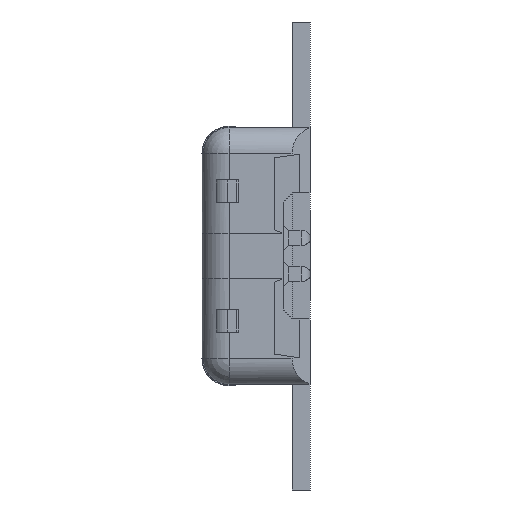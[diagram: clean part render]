
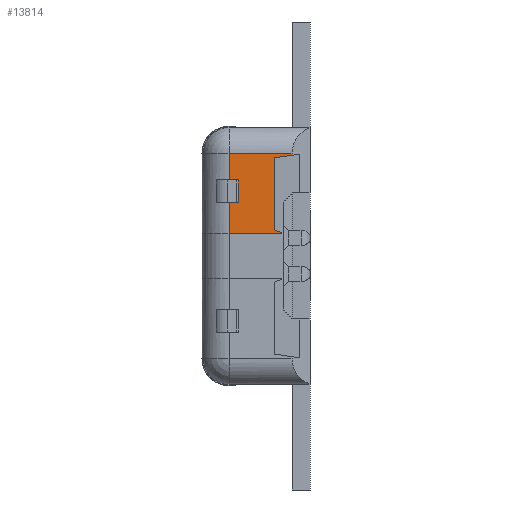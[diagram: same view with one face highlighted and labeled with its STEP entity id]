
A CAD part, left-side view. The second image highlights one B-rep face of the part: STEP entity #13814.
In plain terms, the highlighted planar face has unit normal (-1, 0, 0).
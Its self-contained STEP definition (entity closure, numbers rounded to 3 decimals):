
#585 = LINE ( 'NONE', #16122, #5335 ) ;
#744 = LINE ( 'NONE', #24359, #17638 ) ;
#988 = CARTESIAN_POINT ( 'NONE',  ( -1.93, 0.1, 0.57 ) ) ;
#1287 = FACE_OUTER_BOUND ( 'NONE', #24732, .T. ) ;
#1405 = CARTESIAN_POINT ( 'NONE',  ( -1.93, 0.4, 0.423 ) ) ;
#1539 = EDGE_CURVE ( 'NONE', #19059, #17351, #744, .T. ) ;
#1727 = EDGE_CURVE ( 'NONE', #11001, #13772, #585, .T. ) ;
#1901 = LINE ( 'NONE', #9736, #23434 ) ;
#1994 = DIRECTION ( 'NONE',  ( 0., 0., -1. ) ) ;
#2076 = EDGE_CURVE ( 'NONE', #19059, #23002, #5708, .T. ) ;
#2386 = DIRECTION ( 'NONE',  ( 0., 0.989, -0.148 ) ) ;
#2564 = DIRECTION ( 'NONE',  ( 0., -1., 0. ) ) ;
#2658 = DIRECTION ( 'NONE',  ( 0., 1., 0. ) ) ;
#2836 = CARTESIAN_POINT ( 'NONE',  ( -1.93, 0.15, 0.125 ) ) ;
#2984 = ORIENTED_EDGE ( 'NONE', *, *, #16762, .F. ) ;
#3034 = CARTESIAN_POINT ( 'NONE',  ( -1.93, 0.45, 0.298 ) ) ;
#4231 = VERTEX_POINT ( 'NONE', #5182 ) ;
#5035 = LINE ( 'NONE', #23127, #23307 ) ;
#5182 = CARTESIAN_POINT ( 'NONE',  ( -1.93, 0.45, 0.125 ) ) ;
#5335 = VECTOR ( 'NONE', #10353, 1000. ) ;
#5648 = PLANE ( 'NONE',  #21124 ) ;
#5708 = LINE ( 'NONE', #15972, #21654 ) ;
#5833 = CARTESIAN_POINT ( 'NONE',  ( -1.93, 0.45, 0.423 ) ) ;
#6487 = VERTEX_POINT ( 'NONE', #18800 ) ;
#7008 = EDGE_CURVE ( 'NONE', #13434, #17351, #1901, .T. ) ;
#7185 = VECTOR ( 'NONE', #17453, 1000. ) ;
#7224 = CARTESIAN_POINT ( 'NONE',  ( -1.93, 0.45, 0.57 ) ) ;
#7565 = LINE ( 'NONE', #19375, #7185 ) ;
#8259 = CARTESIAN_POINT ( 'NONE',  ( -1.93, 0.2, 0.145 ) ) ;
#8847 = ORIENTED_EDGE ( 'NONE', *, *, #1539, .F. ) ;
#9258 = VECTOR ( 'NONE', #24954, 1000. ) ;
#9264 = DIRECTION ( 'NONE',  ( 0., 0., -1. ) ) ;
#9290 = VECTOR ( 'NONE', #1994, 1000. ) ;
#9736 = CARTESIAN_POINT ( 'NONE',  ( -1.93, 0.45, 0.57 ) ) ;
#10353 = DIRECTION ( 'NONE',  ( 0., -0.928, -0.371 ) ) ;
#10758 = ORIENTED_EDGE ( 'NONE', *, *, #11494, .F. ) ;
#10878 = ORIENTED_EDGE ( 'NONE', *, *, #7008, .T. ) ;
#10911 = VECTOR ( 'NONE', #2564, 1000. ) ;
#11001 = VERTEX_POINT ( 'NONE', #8259 ) ;
#11204 = LINE ( 'NONE', #19029, #9258 ) ;
#11494 = EDGE_CURVE ( 'NONE', #20838, #23002, #18355, .T. ) ;
#13017 = ORIENTED_EDGE ( 'NONE', *, *, #17130, .F. ) ;
#13343 = CARTESIAN_POINT ( 'NONE',  ( -1.93, 0.275, 0.545 ) ) ;
#13434 = VERTEX_POINT ( 'NONE', #7224 ) ;
#13772 = VERTEX_POINT ( 'NONE', #2836 ) ;
#13814 = ADVANCED_FACE ( 'NONE', ( #1287 ), #5648, .F. ) ;
#13874 = ORIENTED_EDGE ( 'NONE', *, *, #14622, .T. ) ;
#13875 = EDGE_CURVE ( 'NONE', #20838, #4231, #7565, .T. ) ;
#14622 = EDGE_CURVE ( 'NONE', #15858, #13434, #11204, .T. ) ;
#15108 = ORIENTED_EDGE ( 'NONE', *, *, #20917, .F. ) ;
#15516 = DIRECTION ( 'NONE',  ( 0., 0., -1. ) ) ;
#15858 = VERTEX_POINT ( 'NONE', #17408 ) ;
#15972 = CARTESIAN_POINT ( 'NONE',  ( -1.93, 0.4, 0.423 ) ) ;
#16122 = CARTESIAN_POINT ( 'NONE',  ( -1.93, 0.2, 0.145 ) ) ;
#16547 = ORIENTED_EDGE ( 'NONE', *, *, #13875, .T. ) ;
#16613 = EDGE_CURVE ( 'NONE', #13772, #4231, #16719, .T. ) ;
#16719 = LINE ( 'NONE', #22870, #21652 ) ;
#16762 = EDGE_CURVE ( 'NONE', #6487, #11001, #5035, .T. ) ;
#17130 = EDGE_CURVE ( 'NONE', #18069, #6487, #17792, .T. ) ;
#17351 = VERTEX_POINT ( 'NONE', #5833 ) ;
#17408 = CARTESIAN_POINT ( 'NONE',  ( -1.93, 0.1, 0.57 ) ) ;
#17453 = DIRECTION ( 'NONE',  ( 0., 0., -1. ) ) ;
#17574 = ORIENTED_EDGE ( 'NONE', *, *, #16613, .F. ) ;
#17638 = VECTOR ( 'NONE', #2658, 1000. ) ;
#17792 = LINE ( 'NONE', #25379, #20438 ) ;
#18069 = VERTEX_POINT ( 'NONE', #21176 ) ;
#18355 = LINE ( 'NONE', #20151, #10911 ) ;
#18573 = LINE ( 'NONE', #988, #9290 ) ;
#18800 = CARTESIAN_POINT ( 'NONE',  ( -1.93, 0.2, 0.545 ) ) ;
#19029 = CARTESIAN_POINT ( 'NONE',  ( -1.93, 0.1, 0.57 ) ) ;
#19059 = VERTEX_POINT ( 'NONE', #1405 ) ;
#19155 = CARTESIAN_POINT ( 'NONE',  ( -1.93, 0.4, 0.298 ) ) ;
#19375 = CARTESIAN_POINT ( 'NONE',  ( -1.93, 0.45, 0.298 ) ) ;
#19694 = DIRECTION ( 'NONE',  ( 0., 0., -1. ) ) ;
#20151 = CARTESIAN_POINT ( 'NONE',  ( -1.93, 0.45, 0.298 ) ) ;
#20438 = VECTOR ( 'NONE', #2386, 1000. ) ;
#20838 = VERTEX_POINT ( 'NONE', #3034 ) ;
#20917 = EDGE_CURVE ( 'NONE', #15858, #18069, #18573, .T. ) ;
#20952 = ORIENTED_EDGE ( 'NONE', *, *, #1727, .F. ) ;
#21124 = AXIS2_PLACEMENT_3D ( 'NONE', #13343, #24780, #25163 ) ;
#21176 = CARTESIAN_POINT ( 'NONE',  ( -1.93, 0.1, 0.56 ) ) ;
#21652 = VECTOR ( 'NONE', #24555, 1000. ) ;
#21654 = VECTOR ( 'NONE', #19694, 1000. ) ;
#22455 = ORIENTED_EDGE ( 'NONE', *, *, #2076, .T. ) ;
#22870 = CARTESIAN_POINT ( 'NONE',  ( -1.93, 0.15, 0.125 ) ) ;
#23002 = VERTEX_POINT ( 'NONE', #19155 ) ;
#23127 = CARTESIAN_POINT ( 'NONE',  ( -1.93, 0.2, 0.545 ) ) ;
#23307 = VECTOR ( 'NONE', #9264, 1000. ) ;
#23434 = VECTOR ( 'NONE', #15516, 1000. ) ;
#24359 = CARTESIAN_POINT ( 'NONE',  ( -1.93, 0.4, 0.423 ) ) ;
#24555 = DIRECTION ( 'NONE',  ( 0., 1., 0. ) ) ;
#24732 = EDGE_LOOP ( 'NONE', ( #13017, #15108, #13874, #10878, #8847, #22455, #10758, #16547, #17574, #20952, #2984 ) ) ;
#24780 = DIRECTION ( 'NONE',  ( 1., 0., 0. ) ) ;
#24954 = DIRECTION ( 'NONE',  ( 0., 1., 0. ) ) ;
#25163 = DIRECTION ( 'NONE',  ( 0., 1., 0. ) ) ;
#25379 = CARTESIAN_POINT ( 'NONE',  ( -1.93, 0.1, 0.56 ) ) ;
